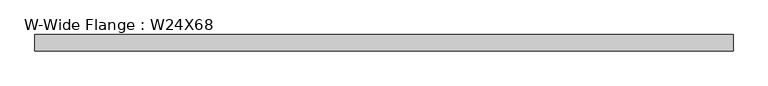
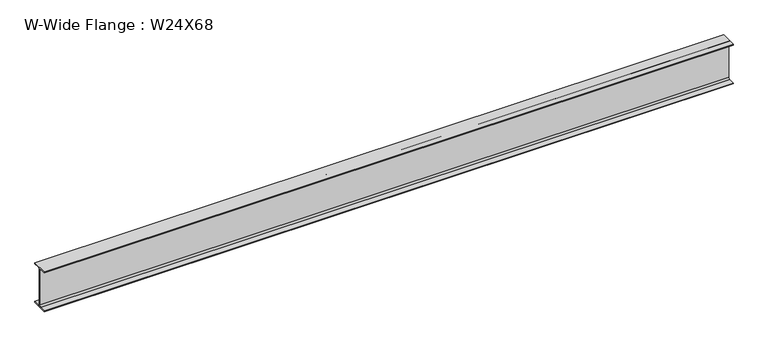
"""IFC4 building model written with IfcOpenShell, lengths in millimetres: beam geometry, W-Wide Flange : W24X68."""

from ifc_helpers import new_model, si_unit, point, frame, frame_2d, origin, place, context, project, spatial, polyline, circle_curve, trimmed, segment, composite_curve, outline, extrude, source, transform, mapped, element, save


def w_wide_flange_w24x68_ad03e389(model_context):
    return source(origin(), model_context, "Body", "SweptSolid", [
        extrude(outline(composite_curve([segment(polyline([(113.919, -286.131), (113.919, -300.99), (-113.919, -300.99), (-113.919, -286.131), (-28.5115, -286.131)]), True, "CONTINUOUS"), segment(trimmed(circle_curve(frame_2d((-28.5115, -262.89)), 23.241), [point((-28.5115, -286.131))], [point((-5.2705, -262.89))], True, "CARTESIAN"), True, "CONTINUOUS"), segment(polyline([(-5.2705, -262.89), (-5.2705, 262.89)]), True, "CONTINUOUS"), segment(trimmed(circle_curve(frame_2d((-28.5115, 262.89)), 23.241), [point((-5.2705, 262.89))], [point((-28.5115, 286.131))], True, "CARTESIAN"), True, "CONTINUOUS"), segment(polyline([(-28.5115, 286.131), (-113.919, 286.131), (-113.919, 300.99), (113.919, 300.99), (113.919, 286.131), (28.5115, 286.131)]), True, "CONTINUOUS"), segment(trimmed(circle_curve(frame_2d((28.5115, 262.89)), 23.241), [point((28.5115, 286.131))], [point((5.2705, 262.89))], True, "CARTESIAN"), True, "CONTINUOUS"), segment(polyline([(5.2705, 262.89), (5.2705, -262.89)]), True, "CONTINUOUS"), segment(trimmed(circle_curve(frame_2d((28.5115, -262.89)), 23.241), [point((5.2705, -262.89))], [point((28.5115, -286.131))], True, "CARTESIAN"), True, "CONTINUOUS"), segment(polyline([(28.5115, -286.131), (113.919, -286.131)]), True, "CONTINUOUS")], self_intersect=False)), frame((-4913.63, 0.0, 0.0), z_axis=(1.0, 0.0, 0.0), x_axis=(0.0, 1.0, 0.0)), (0.0, 0.0, 1.0), 9827.26),
    ])


if __name__ == "__main__":
    model = new_model("IFC4")
    model_context = context("Model", 3, world=origin())
    ifc_project = project(units=[si_unit("LENGTHUNIT", "METRE", prefix="MILLI")], contexts=[model_context])
    site = spatial("IfcSite", under=ifc_project)
    building = spatial("IfcBuilding", under=site)
    placement = place(None, origin())
    w_wide_flange_w24x68_shape = w_wide_flange_w24x68_ad03e389(model_context)
    element("IfcBeam", 1, ObjectType="W-Wide Flange : W24X68", at=placement, inside=building, context=model_context, shape_type="MappedRepresentation", body=[
        mapped(w_wide_flange_w24x68_shape, transform((0.0, 0.0, 0.0), x_axis=(1.0, 0.0, 0.0), y_axis=(0.0, 1.0, 0.0), z_axis=(0.0, 0.0, 1.0))),
    ])
    save(model, "model.ifc")
